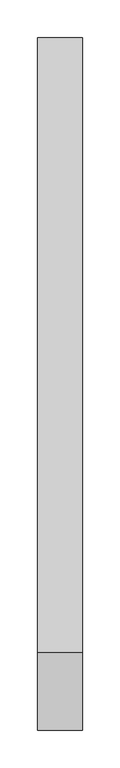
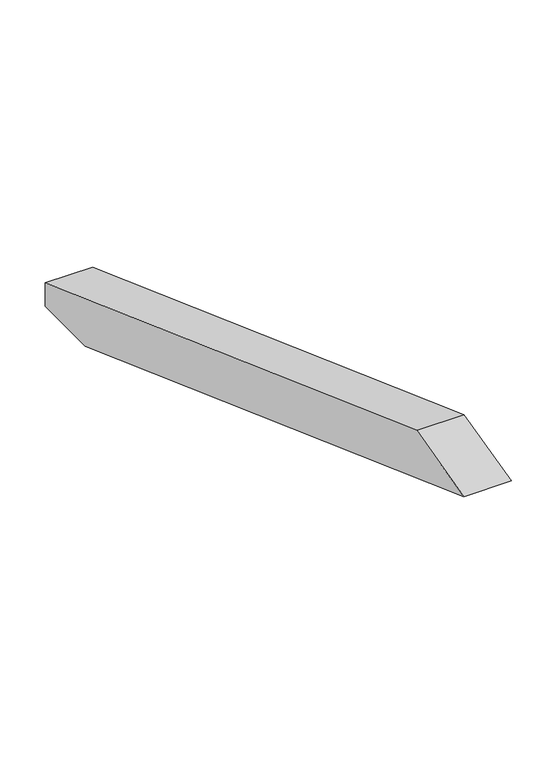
"""IFC4 building model written with IfcOpenShell, lengths in millimetres: proxy geometry, Modelos genéricos 132 : Modelos genéricos 14."""

import ifcopenshell
import ifcopenshell.guid

model = None  # the IFC model being written
_history = None  # IfcOwnerHistory: only IFC2X3 demands one
_inside = {}  # id of a spatial element -> (the spatial element, [elements in it])
_under = {}  # id of a project, library or spatial element -> (it, [spatial elements below it])
_declared = {}  # id of a project -> (the project, [libraries it declares])
_typed = {}  # id of a type object -> (the type object, [elements of that type])
_made_of = {}  # id of a material, layer set ... -> (it, [elements and type objects made of it])


def new_model(schema):
    """Start an empty IFC model of exactly this schema.

    Asked for "IFC4X3", IfcOpenShell would pick the latest addendum, in which some entities
    have other attributes; the version numbers below select the first issue.
    IFC2X3 requires an IfcOwnerHistory on every rooted entity: one is made here for all.
    """
    global model, _history
    if schema == "IFC4X3":
        model = ifcopenshell.file(schema_version=(4, 3, 0, 0))
    else:
        model = ifcopenshell.file(schema=schema)
    _inside.clear()
    _under.clear()
    _declared.clear()
    _typed.clear()
    _made_of.clear()
    _history = None
    if model.schema == "IFC2X3":
        org = make("IfcOrganization", Name="unknown")
        user = make(
            "IfcPersonAndOrganization",
            ThePerson=make("IfcPerson", FamilyName="unknown"),
            TheOrganization=org,
        )
        app = make(
            "IfcApplication",
            ApplicationDeveloper=org,
            Version="unknown",
            ApplicationFullName="unknown",
            ApplicationIdentifier="unknown",
        )
        _history = make(
            "IfcOwnerHistory",
            OwningUser=user,
            OwningApplication=app,
            ChangeAction="ADDED",
            CreationDate=0,
        )
    return model


def make(cls, **values):
    """One entity of the class cls with the attributes given. An attribute that is None is left unset."""
    return model.create_entity(
        cls, **{name: value for name, value in values.items() if value is not None}
    )


def rooted(cls, **values):
    """An entity with a GlobalId (a new one), such as an element, a storey or a relation."""
    return make(cls, GlobalId=ifcopenshell.guid.new(), OwnerHistory=_history, **values)


def si_unit(unit_type, name, prefix=None):
    """IfcSIUnit, for example si_unit("LENGTHUNIT", "METRE", prefix="MILLI")."""
    return make("IfcSIUnit", UnitType=unit_type, Prefix=prefix, Name=name)


def assignment(units):
    """IfcUnitAssignment: the units of a project."""
    return None if units is None else make("IfcUnitAssignment", Units=units)


def point(xyz):
    """IfcCartesianPoint."""
    return None if xyz is None else make("IfcCartesianPoint", Coordinates=xyz)


def direction(xyz):
    """IfcDirection."""
    return None if xyz is None else make("IfcDirection", DirectionRatios=xyz)


def frame(location, z_axis=None, x_axis=None):
    """IfcAxis2Placement3D, a coordinate frame: its origin and axes. An axis left out is left unset."""
    return make(
        "IfcAxis2Placement3D",
        Location=point(location),
        Axis=direction(z_axis),
        RefDirection=direction(x_axis),
    )


def origin():
    """The frame at (0, 0, 0) with its axes left unset."""
    return frame((0.0, 0.0, 0.0))


def place(relative_to, where):
    """IfcLocalPlacement: puts the frame where relative to a parent placement (None: the world)."""
    return make(
        "IfcLocalPlacement", PlacementRelTo=relative_to, RelativePlacement=where
    )


def context(
    kind, dimensions, precision=None, world=None, true_north=None, identifier=None
):
    """IfcGeometricRepresentationContext, for example the 3D "Model" context."""
    return make(
        "IfcGeometricRepresentationContext",
        ContextIdentifier=identifier,
        ContextType=kind,
        CoordinateSpaceDimension=dimensions,
        Precision=precision,
        WorldCoordinateSystem=world,
        TrueNorth=true_north,
    )


def project(units=None, contexts=None):
    """IfcProject with its units and contexts."""
    return rooted(
        "IfcProject",
        Name="project",
        RepresentationContexts=contexts,
        UnitsInContext=assignment(units),
    )


def spatial(cls, under=None, at=None, **own):
    """A site, building, storey or space (cls), placed at a placement, below another one or the project."""
    s = rooted(cls, ObjectPlacement=at, **own)
    if under is not None:
        _under.setdefault(under.id(), (under, []))[1].append(s)
    return s


def polyline(points):
    """IfcPolyline through the points."""
    return make("IfcPolyline", Points=[point(p) for p in points])


def outline(outer, holes=None, kind="AREA"):
    """IfcArbitraryClosedProfileDef: a profile drawn as a closed curve; with holes, ...WithVoids."""
    if holes is None:
        return make("IfcArbitraryClosedProfileDef", ProfileType=kind, OuterCurve=outer)
    return make(
        "IfcArbitraryProfileDefWithVoids",
        ProfileType=kind,
        OuterCurve=outer,
        InnerCurves=holes,
    )


def extrude(swept, where, along, depth):
    """IfcExtrudedAreaSolid: the profile swept, set in the frame where, extruded along a direction by depth."""
    return make(
        "IfcExtrudedAreaSolid",
        SweptArea=swept,
        Position=where,
        ExtrudedDirection=direction(along),
        Depth=depth,
    )


def shape(context_of_items, identifier, shape_type, items):
    """IfcShapeRepresentation: the items that make up one representation, for example the "Body"."""
    return make(
        "IfcShapeRepresentation",
        ContextOfItems=context_of_items,
        RepresentationIdentifier=identifier,
        RepresentationType=shape_type,
        Items=items,
    )


def source(mapping_origin, context_of_items, identifier, shape_type, items):
    """IfcRepresentationMap: a shape defined once, which mapped items show again and again."""
    return make(
        "IfcRepresentationMap",
        MappingOrigin=mapping_origin,
        MappedRepresentation=shape(context_of_items, identifier, shape_type, items),
    )


def transform(
    local_origin,
    x_axis=None,
    y_axis=None,
    z_axis=None,
    scale=None,
    scale2=None,
    scale3=None,
    uniform=True,
):
    """IfcCartesianTransformationOperator3D, or its non-uniform kind. x_axis, y_axis, z_axis: its Axis1, 2, 3."""
    if uniform:
        return make(
            "IfcCartesianTransformationOperator3D",
            Axis1=direction(x_axis),
            Axis2=direction(y_axis),
            LocalOrigin=point(local_origin),
            Scale=scale,
            Axis3=direction(z_axis),
        )
    return make(
        "IfcCartesianTransformationOperator3DnonUniform",
        Axis1=direction(x_axis),
        Axis2=direction(y_axis),
        LocalOrigin=point(local_origin),
        Scale=scale,
        Axis3=direction(z_axis),
        Scale2=scale2,
        Scale3=scale3,
    )


def mapped(mapping_source, mapping_target):
    """IfcMappedItem: shows the shape of a source again, moved by a transform."""
    return make(
        "IfcMappedItem", MappingSource=mapping_source, MappingTarget=mapping_target
    )


def made_of(thing, what):
    """Note that an element or type object is made of a material, layer set ...; save() writes the relation."""
    if what is not None:
        _made_of.setdefault(what.id(), (what, []))[1].append(thing)
    return thing


def element(
    cls,
    number,
    at=None,
    inside=None,
    cuts=None,
    type_object=None,
    material=None,
    context=None,
    identifier="Body",
    shape_type=None,
    held_by="IfcProductDefinitionShape",
    body=None,
    shapes=None,
    **own,
):
    """One element of the class cls, such as IfcWall. Its Tag is "e" and its number.

    at: its placement. inside: the storey or other place that contains it. cuts: it is an
    opening in that element (IfcRelVoidsElement). A single representation is given by context,
    identifier, shape_type and body (its items); several are given by shapes. held_by: the class
    of the entity that holds the representations. save() writes the other relations.
    """
    e = rooted(cls, Tag="e%d" % number, ObjectPlacement=at, **own)
    if body is not None:
        shapes = [shape(context, identifier, shape_type, body)]
    if shapes is not None:
        e.Representation = make(held_by, Representations=shapes)
    if inside is not None:
        _inside.setdefault(inside.id(), (inside, []))[1].append(e)
    if cuts is not None:
        rooted(
            "IfcRelVoidsElement", RelatingBuildingElement=cuts, RelatedOpeningElement=e
        )
    if type_object is not None:
        _typed.setdefault(type_object.id(), (type_object, []))[1].append(e)
    return made_of(e, material)


def aggregate(whole, parts):
    """IfcRelAggregates: a whole, such as a stair, and the parts it consists of."""
    return rooted("IfcRelAggregates", RelatingObject=whole, RelatedObjects=parts)


def save(model, path):
    """Write the relations noted so far, then the file.

    IfcRelAggregates (storeys below a building ...), IfcRelContainedInSpatialStructure (elements
    in a storey), IfcRelDefinesByType, IfcRelAssociatesMaterial and IfcRelDeclares: one each for
    every whole, place, type object, material and project.
    """
    for whole, parts in _under.values():
        aggregate(whole, parts)
    for where, things in _inside.values():
        rooted(
            "IfcRelContainedInSpatialStructure",
            RelatedElements=things,
            RelatingStructure=where,
        )
    for kind, things in _typed.values():
        rooted("IfcRelDefinesByType", RelatedObjects=things, RelatingType=kind)
    for what, things in _made_of.values():
        rooted("IfcRelAssociatesMaterial", RelatedObjects=things, RelatingMaterial=what)
    for by, libraries in _declared.values():
        rooted("IfcRelDeclares", RelatingContext=by, RelatedDefinitions=libraries)
    model.write(path)


def generic_models_a9474a37(model_context):
    return source(origin(), model_context, "Body", "SweptSolid", [
        extrude(outline(polyline([(-422.9933771, 3463.5158927), (-318.8830723, 3489.473507), (498.6238165, 3191.9253332), (498.6238165, 3160.0), (410.9096845, 3160.0), (-422.9933771, 3463.5158927)])), frame((9223.4472467, 0.0, 0.0), z_axis=(1.0, 0.0, 0.0), x_axis=(0.0, 1.0, 0.0)), (0.0, 0.0, 1.0), 60.0),
    ])


if __name__ == "__main__":
    model = new_model("IFC4")
    model_context = context("Model", 3, world=origin())
    ifc_project = project(units=[si_unit("LENGTHUNIT", "METRE", prefix="MILLI")], contexts=[model_context])
    site = spatial("IfcSite", under=ifc_project)
    building = spatial("IfcBuilding", under=site)
    placement = place(None, origin())
    generic_models_shape = generic_models_a9474a37(model_context)
    element("IfcBuildingElementProxy", 1, Name="Modelos genéricos 132 : Modelos genéricos 14", ObjectType="Modelos genéricos 132 : Modelos genéricos 14", at=placement, inside=building, context=model_context, shape_type="MappedRepresentation", body=[
        mapped(generic_models_shape, transform((0.0, 0.0, 0.0), x_axis=(1.0, 0.0, 0.0), y_axis=(0.0, 1.0, 0.0), z_axis=(0.0, 0.0, 1.0))),
    ])
    save(model, "model.ifc")
